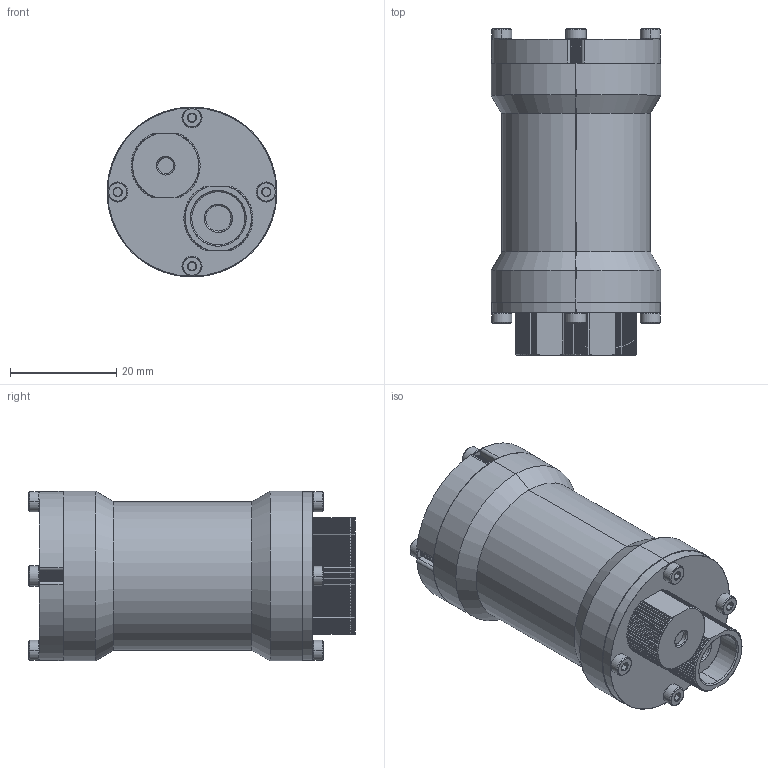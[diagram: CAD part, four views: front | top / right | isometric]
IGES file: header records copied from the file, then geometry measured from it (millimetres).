
Start section: SolidWorks IGES file using analytic representation for surfaces
Global section: file name: C:\Users\Jonathan\Dropbox\BR-Engineering\Models\LUMEN-LIGHT-X1-PUBLIC\Assem-LUMEN-LIGHT-R1.IGS; native system: SolidWorks 2014; preprocessor: SolidWorks 2014; author: Jonathan; date: 160217.123010; units: inch
Bounding box: 32 x 61.5 x 32 mm (x, y, z)
Surface area: 9632.9 mm2 (no closed solid volume)
Topology: 0 solids, 0 shells, 701 faces, 8196 edges, 8196 vertices
Faces by surface type: revolution 404, bspline 297
